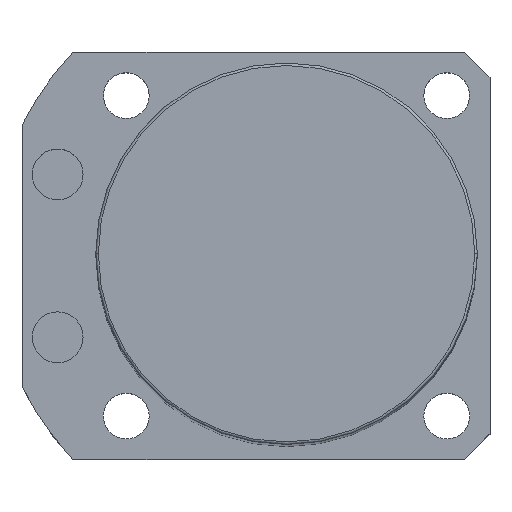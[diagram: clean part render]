
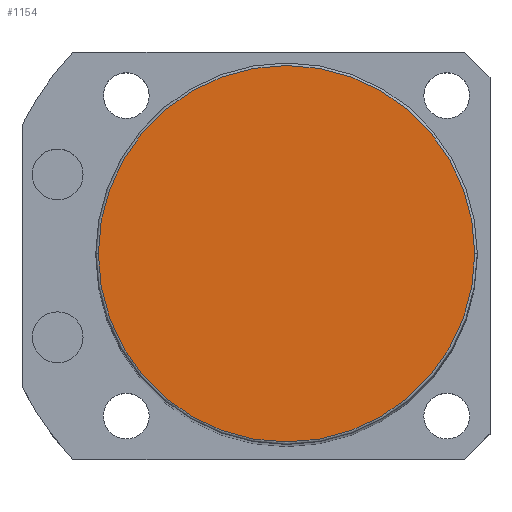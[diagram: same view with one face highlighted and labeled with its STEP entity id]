
A CAD part, top view. The second image highlights one B-rep face of the part: STEP entity #1154.
In plain terms, the highlighted planar face has unit normal (0, 0, 1).
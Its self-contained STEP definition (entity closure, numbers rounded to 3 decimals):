
#101 = DIRECTION ( 'NONE',  ( 0., 0., 1. ) ) ;
#135 = AXIS2_PLACEMENT_3D ( 'NONE', #1326, #1544, #221 ) ;
#159 = AXIS2_PLACEMENT_3D ( 'NONE', #804, #2130, #2349 ) ;
#221 = DIRECTION ( 'NONE',  ( 1., 0., 0. ) ) ;
#284 = EDGE_CURVE ( 'NONE', #2777, #1563, #822, .T. ) ;
#333 = DIRECTION ( 'NONE',  ( 1., 0., 0. ) ) ;
#500 = ORIENTED_EDGE ( 'NONE', *, *, #512, .T. ) ;
#512 = EDGE_CURVE ( 'NONE', #1563, #2777, #1585, .T. ) ;
#804 = CARTESIAN_POINT ( 'NONE',  ( 0., 0., 255.5 ) ) ;
#822 = CIRCLE ( 'NONE', #135, 37. ) ;
#1127 = CARTESIAN_POINT ( 'NONE',  ( -37., 0., 255.5 ) ) ;
#1154 = ADVANCED_FACE ( 'NONE', ( #1271 ), #2316, .T. ) ;
#1271 = FACE_OUTER_BOUND ( 'NONE', #1325, .T. ) ;
#1325 = EDGE_LOOP ( 'NONE', ( #500, #2301 ) ) ;
#1326 = CARTESIAN_POINT ( 'NONE',  ( 0., 0., 255.5 ) ) ;
#1441 = CARTESIAN_POINT ( 'NONE',  ( 0., 0., 255.5 ) ) ;
#1544 = DIRECTION ( 'NONE',  ( 0., 0., 1. ) ) ;
#1563 = VERTEX_POINT ( 'NONE', #1778 ) ;
#1585 = CIRCLE ( 'NONE', #2447, 37. ) ;
#1778 = CARTESIAN_POINT ( 'NONE',  ( 37., 0., 255.5 ) ) ;
#2130 = DIRECTION ( 'NONE',  ( 0., 0., 1. ) ) ;
#2301 = ORIENTED_EDGE ( 'NONE', *, *, #284, .T. ) ;
#2316 = PLANE ( 'NONE',  #159 ) ;
#2349 = DIRECTION ( 'NONE',  ( 1., 0., 0. ) ) ;
#2447 = AXIS2_PLACEMENT_3D ( 'NONE', #1441, #101, #333 ) ;
#2777 = VERTEX_POINT ( 'NONE', #1127 ) ;
